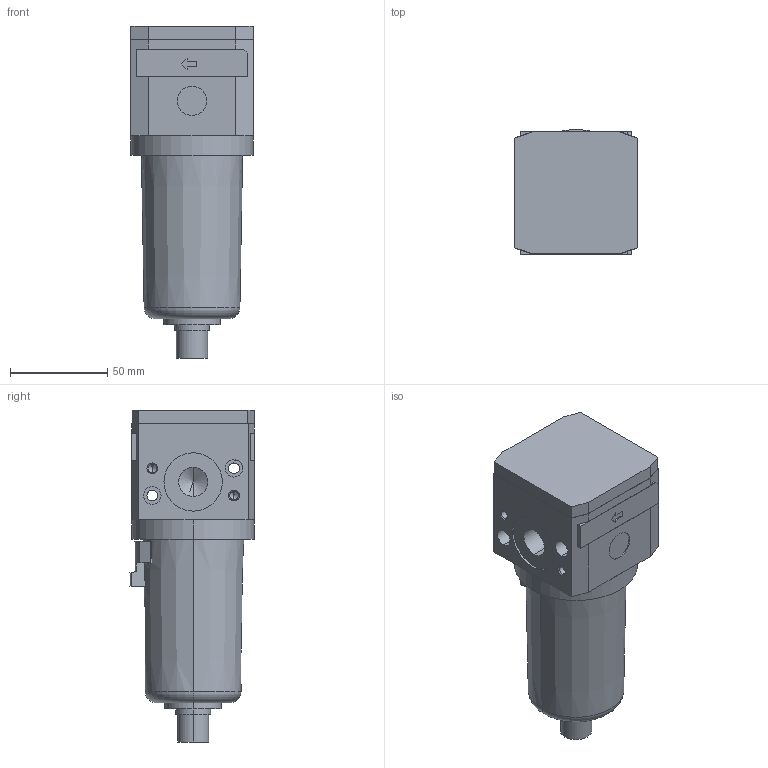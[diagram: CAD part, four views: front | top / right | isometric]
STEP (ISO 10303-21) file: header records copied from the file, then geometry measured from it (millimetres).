
FILE_DESCRIPTION((''),'2;1');
FILE_NAME('I:\DOC-EDP\Lib-3d\FRL\17308A_.stp','2003-06-16T14:59:49',('maffial1'),(''),'Autodesk Inventor 7','Autodesk Inventor 7','');
FILE_SCHEMA(('AUTOMOTIVE_DESIGN { 1 0 10303 214 1 1 1 1 }'));
Length unit declared in the file: millimetre
Products named in the file (1): 17308A_
Bounding box: 63 x 64.18 x 170.7 mm (x, y, z)
Volume: 412447.8 mm3; surface area: 50229.2 mm2
Topology: 1 solids, 3 shells, 171 faces, 418 edges, 262 vertices
Faces by surface type: plane 67, bspline 57, cylinder 32, cone 13, torus 2
Entity records: 5319 total; most frequent: CARTESIAN_POINT 1403, ORIENTED_EDGE 812, DIRECTION 764, EDGE_CURVE 406, VECTOR 278, LINE 278, VERTEX_POINT 262, AXIS2_PLACEMENT_3D 243
